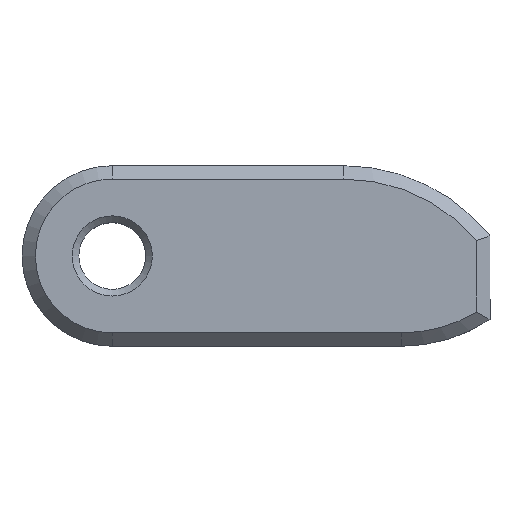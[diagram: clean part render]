
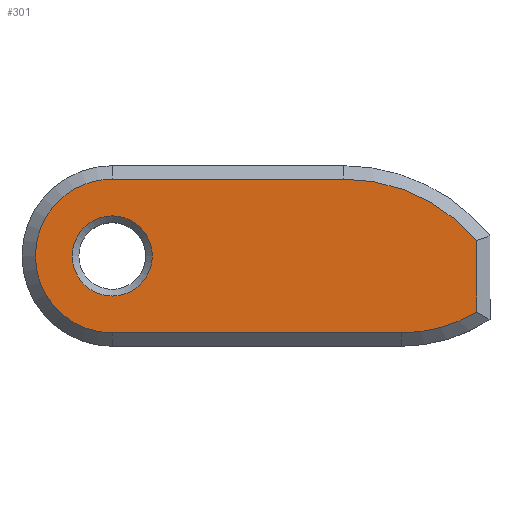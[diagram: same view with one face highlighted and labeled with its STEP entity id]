
A CAD part, top view. The second image highlights one B-rep face of the part: STEP entity #301.
In plain terms, the highlighted planar face has unit normal (0, 0, 1).
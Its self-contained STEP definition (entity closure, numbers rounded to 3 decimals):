
#10 = VERTEX_POINT ( 'NONE', #347 ) ;
#33 = CARTESIAN_POINT ( 'NONE',  ( 0., 0., 5. ) ) ;
#43 = ORIENTED_EDGE ( 'NONE', *, *, #77, .T. ) ;
#71 = CARTESIAN_POINT ( 'NONE',  ( 54.5, -8.394, 5. ) ) ;
#72 = ORIENTED_EDGE ( 'NONE', *, *, #638, .T. ) ;
#77 = EDGE_CURVE ( 'NONE', #182, #433, #157, .T. ) ;
#79 = DIRECTION ( 'NONE',  ( 1., 0., 0. ) ) ;
#87 = FACE_BOUND ( 'NONE', #475, .T. ) ;
#93 = DIRECTION ( 'NONE',  ( 0., 0., 1. ) ) ;
#129 = CIRCLE ( 'NONE', #382, 11.5 ) ;
#130 = CARTESIAN_POINT ( 'NONE',  ( 0., 0., 5. ) ) ;
#146 = ORIENTED_EDGE ( 'NONE', *, *, #610, .T. ) ;
#157 = LINE ( 'NONE', #361, #604 ) ;
#158 = VERTEX_POINT ( 'NONE', #306 ) ;
#181 = AXIS2_PLACEMENT_3D ( 'NONE', #33, #439, #340 ) ;
#182 = VERTEX_POINT ( 'NONE', #71 ) ;
#190 = AXIS2_PLACEMENT_3D ( 'NONE', #130, #573, #527 ) ;
#198 = CARTESIAN_POINT ( 'NONE',  ( 43.23, -11.5, 5. ) ) ;
#205 = DIRECTION ( 'NONE',  ( 1., 0., 0. ) ) ;
#206 = VERTEX_POINT ( 'NONE', #226 ) ;
#224 = DIRECTION ( 'NONE',  ( 0., 0., 1. ) ) ;
#226 = CARTESIAN_POINT ( 'NONE',  ( 0., -11.5, 5. ) ) ;
#229 = DIRECTION ( 'NONE',  ( 1., 0., 0. ) ) ;
#242 = VERTEX_POINT ( 'NONE', #568 ) ;
#248 = CIRCLE ( 'NONE', #190, 6. ) ;
#254 = ORIENTED_EDGE ( 'NONE', *, *, #321, .T. ) ;
#270 = EDGE_CURVE ( 'NONE', #242, #206, #129, .T. ) ;
#272 = AXIS2_PLACEMENT_3D ( 'NONE', #529, #628, #79 ) ;
#299 = DIRECTION ( 'NONE',  ( 0., 1., 0. ) ) ;
#301 = ADVANCED_FACE ( 'NONE', ( #87, #353 ), #486, .T. ) ;
#306 = CARTESIAN_POINT ( 'NONE',  ( 34.64, 11.5, 5. ) ) ;
#321 = EDGE_CURVE ( 'NONE', #206, #616, #386, .T. ) ;
#324 = CARTESIAN_POINT ( 'NONE',  ( 43.23, -11.5, 5. ) ) ;
#333 = AXIS2_PLACEMENT_3D ( 'NONE', #429, #224, #229 ) ;
#336 = DIRECTION ( 'NONE',  ( -1., 0., 0. ) ) ;
#340 = DIRECTION ( 'NONE',  ( 1., 0., 0. ) ) ;
#347 = CARTESIAN_POINT ( 'NONE',  ( 6., 0., 5. ) ) ;
#352 = CIRCLE ( 'NONE', #333, 22. ) ;
#353 = FACE_OUTER_BOUND ( 'NONE', #455, .T. ) ;
#361 = CARTESIAN_POINT ( 'NONE',  ( 54.5, 2.997, 5. ) ) ;
#379 = CARTESIAN_POINT ( 'NONE',  ( 0., 11.5, 5. ) ) ;
#382 = AXIS2_PLACEMENT_3D ( 'NONE', #626, #93, #578 ) ;
#386 = LINE ( 'NONE', #198, #635 ) ;
#390 = CIRCLE ( 'NONE', #272, 26. ) ;
#417 = VECTOR ( 'NONE', #336, 1000. ) ;
#429 = CARTESIAN_POINT ( 'NONE',  ( 43.23, 10.5, 5. ) ) ;
#433 = VERTEX_POINT ( 'NONE', #520 ) ;
#434 = EDGE_CURVE ( 'NONE', #616, #182, #352, .T. ) ;
#439 = DIRECTION ( 'NONE',  ( 0., 0., 1. ) ) ;
#455 = EDGE_LOOP ( 'NONE', ( #599, #43, #72, #146, #504, #254 ) ) ;
#475 = EDGE_LOOP ( 'NONE', ( #550 ) ) ;
#486 = PLANE ( 'NONE',  #181 ) ;
#504 = ORIENTED_EDGE ( 'NONE', *, *, #270, .T. ) ;
#520 = CARTESIAN_POINT ( 'NONE',  ( 54.5, 2.28, 5. ) ) ;
#527 = DIRECTION ( 'NONE',  ( 1., 0., 0. ) ) ;
#529 = CARTESIAN_POINT ( 'NONE',  ( 34.64, -14.5, 5. ) ) ;
#550 = ORIENTED_EDGE ( 'NONE', *, *, #625, .T. ) ;
#568 = CARTESIAN_POINT ( 'NONE',  ( 0., 11.5, 5. ) ) ;
#573 = DIRECTION ( 'NONE',  ( 0., 0., -1. ) ) ;
#578 = DIRECTION ( 'NONE',  ( 1., 0., 0. ) ) ;
#599 = ORIENTED_EDGE ( 'NONE', *, *, #434, .T. ) ;
#604 = VECTOR ( 'NONE', #299, 1000. ) ;
#610 = EDGE_CURVE ( 'NONE', #158, #242, #622, .T. ) ;
#616 = VERTEX_POINT ( 'NONE', #324 ) ;
#622 = LINE ( 'NONE', #379, #417 ) ;
#625 = EDGE_CURVE ( 'NONE', #10, #10, #248, .T. ) ;
#626 = CARTESIAN_POINT ( 'NONE',  ( 0., 0., 5. ) ) ;
#628 = DIRECTION ( 'NONE',  ( 0., 0., 1. ) ) ;
#635 = VECTOR ( 'NONE', #205, 1000. ) ;
#638 = EDGE_CURVE ( 'NONE', #433, #158, #390, .T. ) ;
